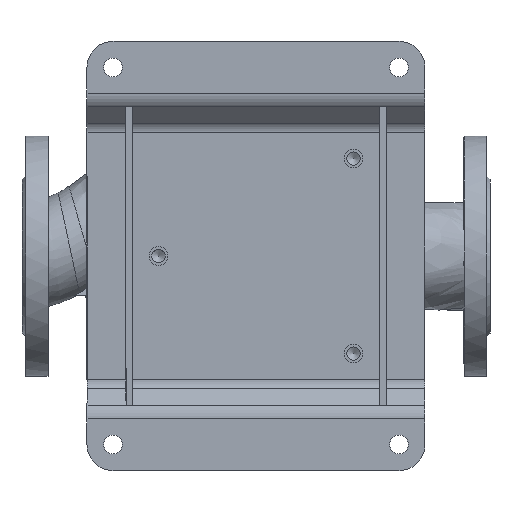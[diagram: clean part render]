
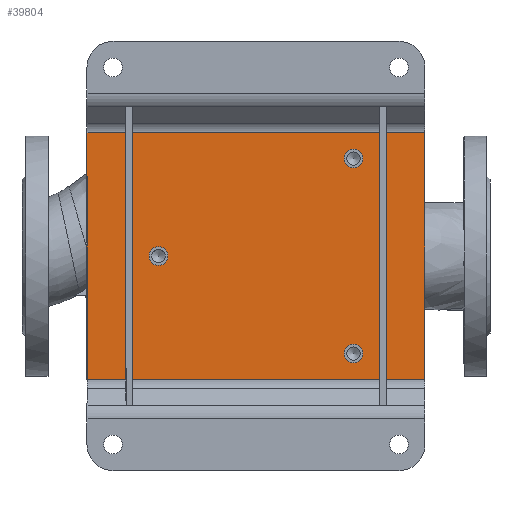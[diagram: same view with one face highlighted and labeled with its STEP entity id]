
A CAD part, top view. The second image highlights one B-rep face of the part: STEP entity #39804.
In plain terms, the highlighted planar face has unit normal (0, 0, 1) as drawn and (0, -1, 0) by its records, which use the part's own axes.
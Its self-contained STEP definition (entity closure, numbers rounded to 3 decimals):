
#305 = AXIS2_PLACEMENT_3D ( 'NONE', #20417, #20852, #17994 ) ;
#329 = ORIENTED_EDGE ( 'NONE', *, *, #20069, .F. ) ;
#2103 = ORIENTED_EDGE ( 'NONE', *, *, #40384, .F. ) ;
#2474 = CARTESIAN_POINT ( 'NONE',  ( 95., -5., 130. ) ) ;
#3261 = ORIENTED_EDGE ( 'NONE', *, *, #8759, .F. ) ;
#3583 = EDGE_CURVE ( 'NONE', #31646, #25309, #15951, .T. ) ;
#4035 = EDGE_CURVE ( 'NONE', #25022, #31646, #39850, .T. ) ;
#4995 = VERTEX_POINT ( 'NONE', #15002 ) ;
#5730 = FACE_BOUND ( 'NONE', #23758, .T. ) ;
#8759 = EDGE_CURVE ( 'NONE', #39879, #25022, #31068, .T. ) ;
#9062 = CARTESIAN_POINT ( 'NONE',  ( 75., -5., 67.75 ) ) ;
#9194 = CIRCLE ( 'NONE', #13330, 7.25 ) ;
#9441 = DIRECTION ( 'NONE',  ( 0., 0., -1. ) ) ;
#9508 = DIRECTION ( 'NONE',  ( 0., -1., 0. ) ) ;
#10116 = EDGE_CURVE ( 'NONE', #4995, #4995, #30839, .T. ) ;
#10216 = CARTESIAN_POINT ( 'NONE',  ( -95., -5., 130. ) ) ;
#10767 = AXIS2_PLACEMENT_3D ( 'NONE', #16142, #16352, #9441 ) ;
#12505 = CARTESIAN_POINT ( 'NONE',  ( -95., -5., 130. ) ) ;
#12848 = ORIENTED_EDGE ( 'NONE', *, *, #20644, .F. ) ;
#12995 = DIRECTION ( 'NONE',  ( -1., 0., 0. ) ) ;
#13330 = AXIS2_PLACEMENT_3D ( 'NONE', #26096, #9508, #36095 ) ;
#13970 = VECTOR ( 'NONE', #12995, 1000. ) ;
#14055 = CARTESIAN_POINT ( 'NONE',  ( -95., -5., 130. ) ) ;
#14377 = CARTESIAN_POINT ( 'NONE',  ( 95., -5., -130. ) ) ;
#15002 = CARTESIAN_POINT ( 'NONE',  ( -75., -5., 67.75 ) ) ;
#15951 = LINE ( 'NONE', #12505, #30711 ) ;
#15972 = VERTEX_POINT ( 'NONE', #9062 ) ;
#16142 = CARTESIAN_POINT ( 'NONE',  ( 0., -5., 0. ) ) ;
#16352 = DIRECTION ( 'NONE',  ( 0., -1., 0. ) ) ;
#17085 = DIRECTION ( 'NONE',  ( 1., 0., 0. ) ) ;
#17994 = DIRECTION ( 'NONE',  ( 0., 0., -1. ) ) ;
#18412 = CARTESIAN_POINT ( 'NONE',  ( -75., -5., 75. ) ) ;
#19366 = VECTOR ( 'NONE', #37206, 1000. ) ;
#20069 = EDGE_CURVE ( 'NONE', #25309, #39879, #30434, .T. ) ;
#20417 = CARTESIAN_POINT ( 'NONE',  ( 75., -5., 75. ) ) ;
#20637 = CARTESIAN_POINT ( 'NONE',  ( 0., -5., -82.25 ) ) ;
#20644 = EDGE_CURVE ( 'NONE', #30667, #30667, #9194, .T. ) ;
#20852 = DIRECTION ( 'NONE',  ( 0., -1., 0. ) ) ;
#22485 = EDGE_LOOP ( 'NONE', ( #3261, #329, #42520, #24105 ) ) ;
#22527 = FACE_BOUND ( 'NONE', #36795, .T. ) ;
#22968 = DIRECTION ( 'NONE',  ( 0., 0., 1. ) ) ;
#23758 = EDGE_LOOP ( 'NONE', ( #27384 ) ) ;
#24105 = ORIENTED_EDGE ( 'NONE', *, *, #4035, .F. ) ;
#25022 = VERTEX_POINT ( 'NONE', #14377 ) ;
#25309 = VERTEX_POINT ( 'NONE', #10216 ) ;
#26088 = CIRCLE ( 'NONE', #305, 7.25 ) ;
#26096 = CARTESIAN_POINT ( 'NONE',  ( 0., -5., -75. ) ) ;
#27179 = CARTESIAN_POINT ( 'NONE',  ( 95., -5., 130. ) ) ;
#27384 = ORIENTED_EDGE ( 'NONE', *, *, #10116, .F. ) ;
#29097 = DIRECTION ( 'NONE',  ( 0., 0., -1. ) ) ;
#30434 = LINE ( 'NONE', #14055, #38389 ) ;
#30667 = VERTEX_POINT ( 'NONE', #20637 ) ;
#30711 = VECTOR ( 'NONE', #22968, 1000. ) ;
#30839 = CIRCLE ( 'NONE', #31562, 7.25 ) ;
#31068 = LINE ( 'NONE', #27179, #19366 ) ;
#31562 = AXIS2_PLACEMENT_3D ( 'NONE', #18412, #31729, #29097 ) ;
#31646 = VERTEX_POINT ( 'NONE', #41006 ) ;
#31729 = DIRECTION ( 'NONE',  ( 0., -1., 0. ) ) ;
#33198 = FACE_BOUND ( 'NONE', #37243, .T. ) ;
#36095 = DIRECTION ( 'NONE',  ( 0., 0., -1. ) ) ;
#36795 = EDGE_LOOP ( 'NONE', ( #2103 ) ) ;
#37206 = DIRECTION ( 'NONE',  ( 0., 0., -1. ) ) ;
#37243 = EDGE_LOOP ( 'NONE', ( #12848 ) ) ;
#38389 = VECTOR ( 'NONE', #17085, 1000. ) ;
#39324 = FACE_OUTER_BOUND ( 'NONE', #22485, .T. ) ;
#39525 = PLANE ( 'NONE',  #10767 ) ;
#39804 = ADVANCED_FACE ( 'NONE', ( #22527, #33198, #5730, #39324 ), #39525, .T. ) ;
#39850 = LINE ( 'NONE', #42916, #13970 ) ;
#39879 = VERTEX_POINT ( 'NONE', #2474 ) ;
#40384 = EDGE_CURVE ( 'NONE', #15972, #15972, #26088, .T. ) ;
#41006 = CARTESIAN_POINT ( 'NONE',  ( -95., -5., -130. ) ) ;
#42520 = ORIENTED_EDGE ( 'NONE', *, *, #3583, .F. ) ;
#42916 = CARTESIAN_POINT ( 'NONE',  ( -95., -5., -130. ) ) ;
